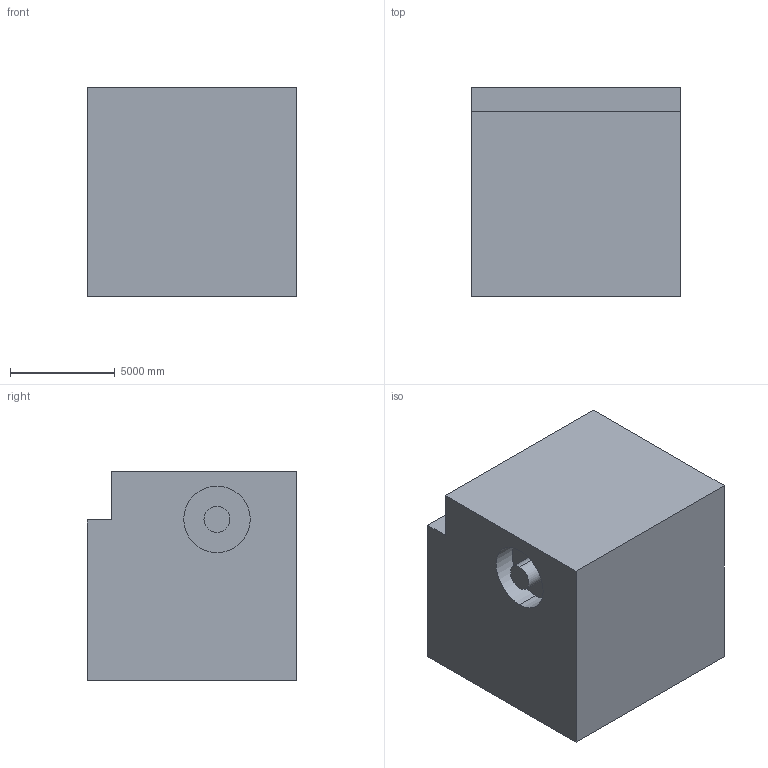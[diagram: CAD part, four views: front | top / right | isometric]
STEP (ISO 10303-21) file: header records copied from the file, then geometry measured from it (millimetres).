
FILE_DESCRIPTION (( 'STEP AP203' ), '1' );
FILE_NAME ('1212.STEP', '2022-08-18T13:12:45', ( 'user' ), ( '' ), 'SwSTEP 2.0', 'SolidWorks 2021', '' );
FILE_SCHEMA (( 'CONFIG_CONTROL_DESIGN' ));
Length unit declared in the file: centimetre
Products named in the file (1): 1212
Bounding box: 10000 x 10000 x 10000 mm (x, y, z)
Volume: 855815243005.2 mm3; surface area: 715514518.4 mm2
Topology: 1 solids, 1 shells, 17 faces, 36 edges, 24 vertices
Faces by surface type: plane 11, cylinder 6
Entity records: 539 total; most frequent: DIRECTION 84, CARTESIAN_POINT 78, ORIENTED_EDGE 72, EDGE_CURVE 36, AXIS2_PLACEMENT_3D 30, VECTOR 24, LINE 24, VERTEX_POINT 24
